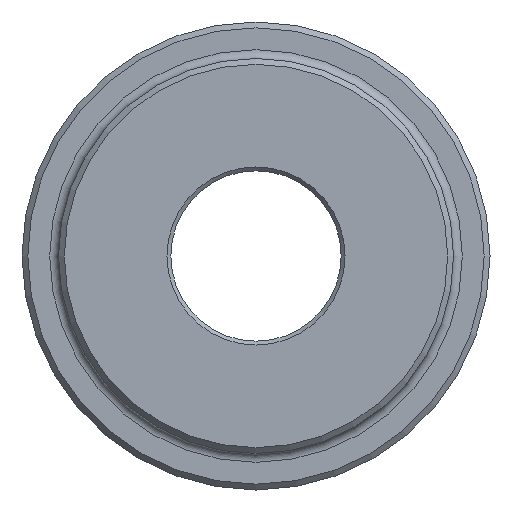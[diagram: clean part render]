
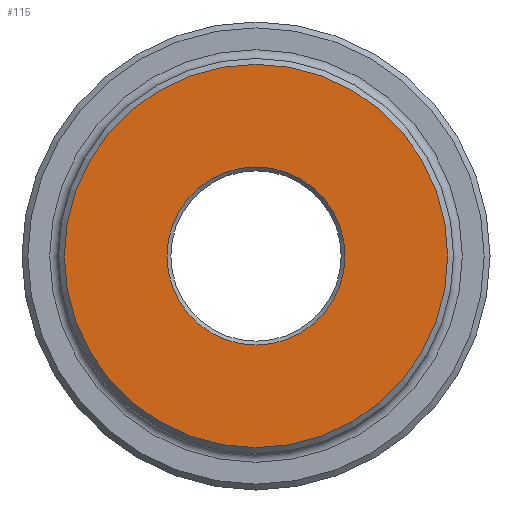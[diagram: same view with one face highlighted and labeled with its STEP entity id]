
A CAD part, left-side view. The second image highlights one B-rep face of the part: STEP entity #115.
In plain terms, the highlighted planar face has unit normal (-1, 0, 0).
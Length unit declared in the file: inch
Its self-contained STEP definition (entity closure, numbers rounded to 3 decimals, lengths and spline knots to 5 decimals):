
#69 = AXIS2_PLACEMENT_3D ( 'NONE', #1548, #1473, #1674 ) ;
#115 = ADVANCED_FACE ( 'NONE', ( #770, #1624 ), #884, .F. ) ;
#210 = ORIENTED_EDGE ( 'NONE', *, *, #437, .T. ) ;
#423 = CARTESIAN_POINT ( 'NONE',  ( 0., 0., -0.91525 ) ) ;
#437 = EDGE_CURVE ( 'NONE', #1320, #1320, #2124, .T. ) ;
#442 = DIRECTION ( 'NONE',  ( 1., 0., 0. ) ) ;
#513 = EDGE_LOOP ( 'NONE', ( #911 ) ) ;
#608 = EDGE_LOOP ( 'NONE', ( #210 ) ) ;
#770 = FACE_BOUND ( 'NONE', #513, .T. ) ;
#884 = PLANE ( 'NONE',  #973 ) ;
#911 = ORIENTED_EDGE ( 'NONE', *, *, #964, .T. ) ;
#964 = EDGE_CURVE ( 'NONE', #1445, #1445, #1149, .T. ) ;
#973 = AXIS2_PLACEMENT_3D ( 'NONE', #1188, #1502, #1383 ) ;
#1013 = CARTESIAN_POINT ( 'NONE',  ( 0., 0., -1.97 ) ) ;
#1149 = CIRCLE ( 'NONE', #2253, 0.91525 ) ;
#1188 = CARTESIAN_POINT ( 'NONE',  ( 0., 0., 0. ) ) ;
#1320 = VERTEX_POINT ( 'NONE', #1013 ) ;
#1383 = DIRECTION ( 'NONE',  ( 0., 0., -1. ) ) ;
#1445 = VERTEX_POINT ( 'NONE', #423 ) ;
#1458 = CARTESIAN_POINT ( 'NONE',  ( 0., 0., 0. ) ) ;
#1473 = DIRECTION ( 'NONE',  ( -1., 0., 0. ) ) ;
#1502 = DIRECTION ( 'NONE',  ( 1., 0., 0. ) ) ;
#1548 = CARTESIAN_POINT ( 'NONE',  ( 0., 0., 0. ) ) ;
#1624 = FACE_OUTER_BOUND ( 'NONE', #608, .T. ) ;
#1674 = DIRECTION ( 'NONE',  ( 0., 0., -1. ) ) ;
#2058 = DIRECTION ( 'NONE',  ( 0., 0., -1. ) ) ;
#2124 = CIRCLE ( 'NONE', #69, 1.97 ) ;
#2253 = AXIS2_PLACEMENT_3D ( 'NONE', #1458, #442, #2058 ) ;
